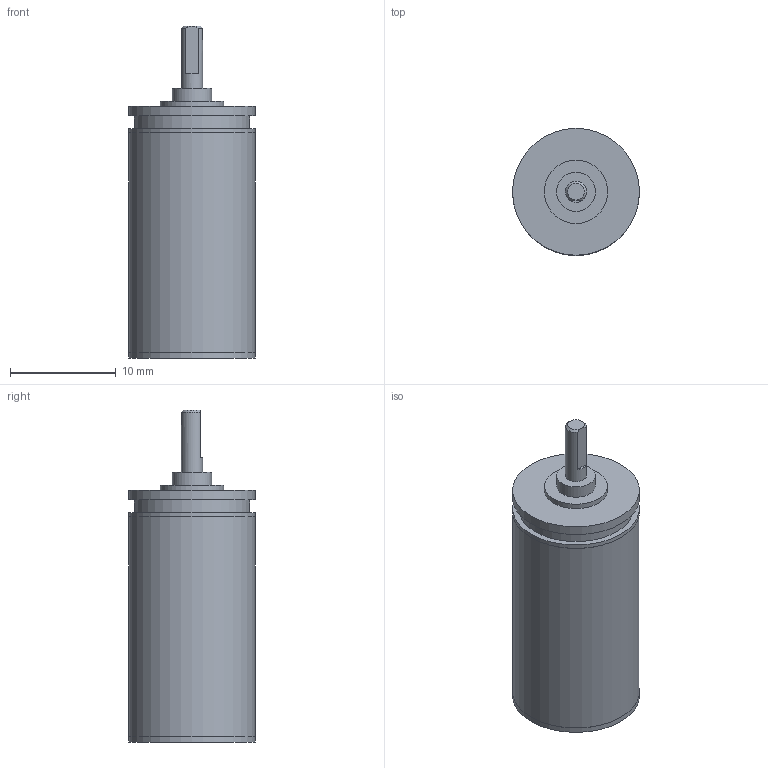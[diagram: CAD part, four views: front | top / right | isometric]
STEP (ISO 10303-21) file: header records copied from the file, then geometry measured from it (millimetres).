
FILE_DESCRIPTION(/* description */ (''),/* implementation_level */ '2;1');
FILE_NAME(/* name */ '12-3_7.stp',/* time_stamp */ '2016-08-24T10:09:19+02:00',/* author */ ('DR. FRITZ FAULHABER GmbH & Co. KG'),/* organization */ ('DR. FRITZ FAULHABER GmbH & Co. KG'),/* preprocessor_version */ 'ST-DEVELOPER v16',/* originating_system */ 'SIEMENS PLM Software NX 10.0',/* authorisation */ '');
FILE_SCHEMA (('AUTOMOTIVE_DESIGN { 1 0 10303 214 3 1 1 1 }'));
Length unit declared in the file: millimetre
Products named in the file (1): H00000570_A
Bounding box: 12 x 12 x 31.4 mm (x, y, z)
Volume: 2641.1 mm3; surface area: 1285.6 mm2
Topology: 1 solids, 1 shells, 32 faces, 52 edges, 34 vertices
Faces by surface type: plane 16, cylinder 14, cone 2
Full cylindrical faces by diameter (mm): 2 x1, 2.48 x1, 2.6 x1, 3.7 x1, 5 x1, 6 x2, 10.88 x1, 11.99 x2, 12 x4
Entity records: 692 total; most frequent: DIRECTION 129, CARTESIAN_POINT 115, ORIENTED_EDGE 70, AXIS2_PLACEMENT_3D 63, EDGE_LOOP 59, FACE_BOUND 54, EDGE_CURVE 35, ADVANCED_FACE 32
